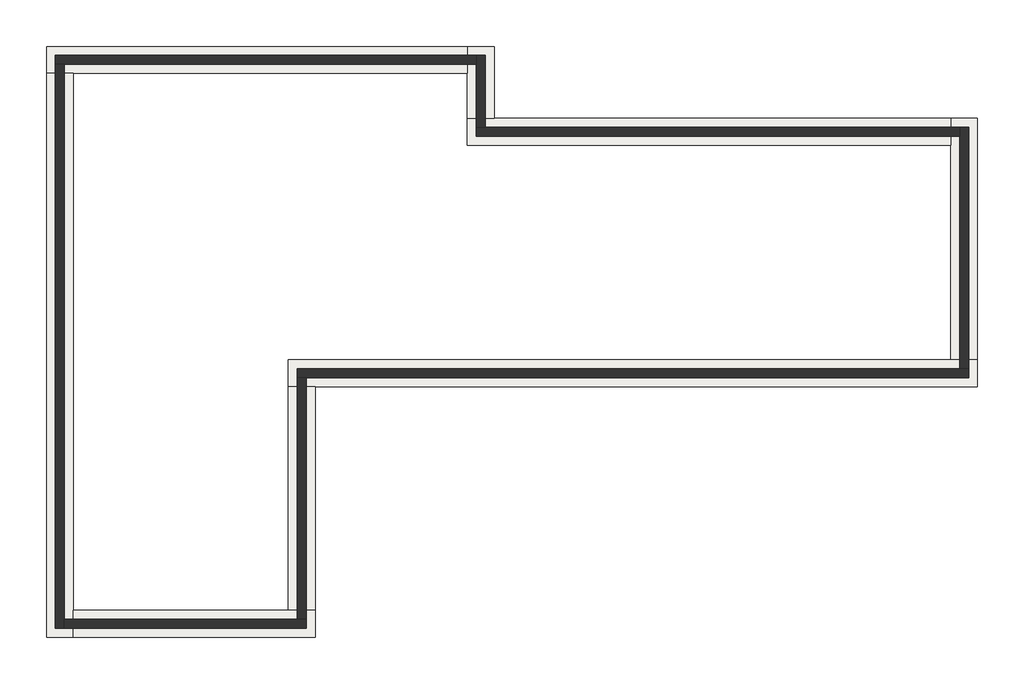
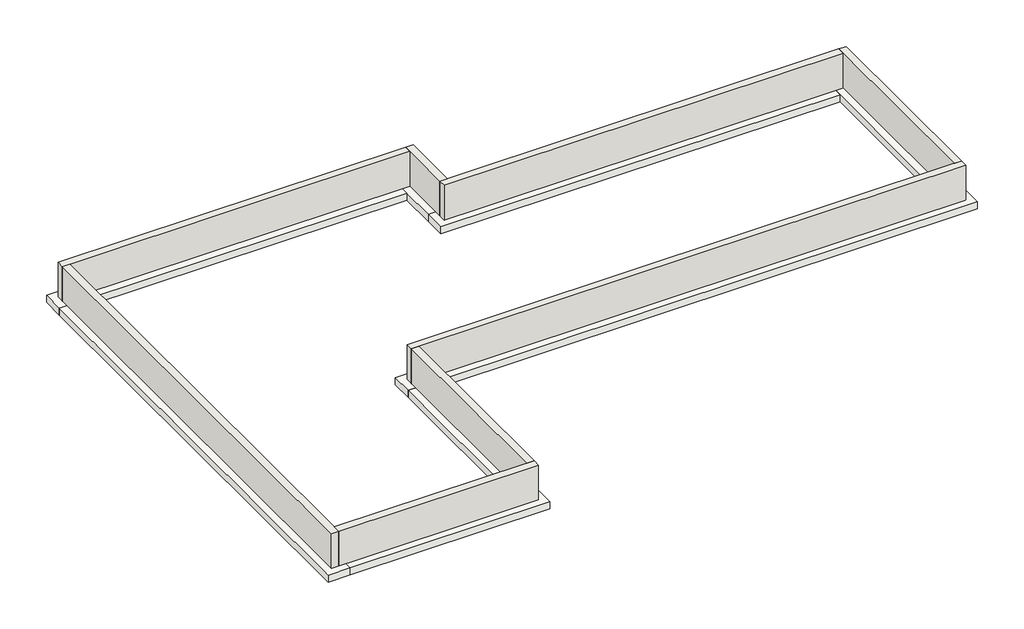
# One storey: 8 footings, 8 walls.
"""IFC4 building model written with IfcOpenShell, lengths in millimetres."""

import ifcopenshell
import ifcopenshell.guid

model = None  # the IFC model being written
_history = None  # IfcOwnerHistory: only IFC2X3 demands one
_inside = {}  # id of a spatial element -> (the spatial element, [elements in it])
_under = {}  # id of a project, library or spatial element -> (it, [spatial elements below it])
_declared = {}  # id of a project -> (the project, [libraries it declares])
_typed = {}  # id of a type object -> (the type object, [elements of that type])
_made_of = {}  # id of a material, layer set ... -> (it, [elements and type objects made of it])


def new_model(schema):
    """Start an empty IFC model of exactly this schema.

    Asked for "IFC4X3", IfcOpenShell would pick the latest addendum, in which some entities
    have other attributes; the version numbers below select the first issue.
    IFC2X3 requires an IfcOwnerHistory on every rooted entity: one is made here for all.
    """
    global model, _history
    if schema == "IFC4X3":
        model = ifcopenshell.file(schema_version=(4, 3, 0, 0))
    else:
        model = ifcopenshell.file(schema=schema)
    _inside.clear()
    _under.clear()
    _declared.clear()
    _typed.clear()
    _made_of.clear()
    _history = None
    if model.schema == "IFC2X3":
        org = make("IfcOrganization", Name="unknown")
        user = make(
            "IfcPersonAndOrganization",
            ThePerson=make("IfcPerson", FamilyName="unknown"),
            TheOrganization=org,
        )
        app = make(
            "IfcApplication",
            ApplicationDeveloper=org,
            Version="unknown",
            ApplicationFullName="unknown",
            ApplicationIdentifier="unknown",
        )
        _history = make(
            "IfcOwnerHistory",
            OwningUser=user,
            OwningApplication=app,
            ChangeAction="ADDED",
            CreationDate=0,
        )
    return model


def make(cls, **values):
    """One entity of the class cls with the attributes given. An attribute that is None is left unset."""
    return model.create_entity(
        cls, **{name: value for name, value in values.items() if value is not None}
    )


def rooted(cls, **values):
    """An entity with a GlobalId (a new one), such as an element, a storey or a relation."""
    return make(cls, GlobalId=ifcopenshell.guid.new(), OwnerHistory=_history, **values)


def si_unit(unit_type, name, prefix=None):
    """IfcSIUnit, for example si_unit("LENGTHUNIT", "METRE", prefix="MILLI")."""
    return make("IfcSIUnit", UnitType=unit_type, Prefix=prefix, Name=name)


def assignment(units):
    """IfcUnitAssignment: the units of a project."""
    return None if units is None else make("IfcUnitAssignment", Units=units)


def point(xyz):
    """IfcCartesianPoint."""
    return None if xyz is None else make("IfcCartesianPoint", Coordinates=xyz)


def direction(xyz):
    """IfcDirection."""
    return None if xyz is None else make("IfcDirection", DirectionRatios=xyz)


def frame(location, z_axis=None, x_axis=None):
    """IfcAxis2Placement3D, a coordinate frame: its origin and axes. An axis left out is left unset."""
    return make(
        "IfcAxis2Placement3D",
        Location=point(location),
        Axis=direction(z_axis),
        RefDirection=direction(x_axis),
    )


def origin():
    """The frame at (0, 0, 0) with its axes left unset."""
    return frame((0.0, 0.0, 0.0))


def place(relative_to, where):
    """IfcLocalPlacement: puts the frame where relative to a parent placement (None: the world)."""
    return make(
        "IfcLocalPlacement", PlacementRelTo=relative_to, RelativePlacement=where
    )


def context(
    kind, dimensions, precision=None, world=None, true_north=None, identifier=None
):
    """IfcGeometricRepresentationContext, for example the 3D "Model" context."""
    return make(
        "IfcGeometricRepresentationContext",
        ContextIdentifier=identifier,
        ContextType=kind,
        CoordinateSpaceDimension=dimensions,
        Precision=precision,
        WorldCoordinateSystem=world,
        TrueNorth=true_north,
    )


def project(units=None, contexts=None):
    """IfcProject with its units and contexts."""
    return rooted(
        "IfcProject",
        Name="project",
        RepresentationContexts=contexts,
        UnitsInContext=assignment(units),
    )


def spatial(cls, under=None, at=None, **own):
    """A site, building, storey or space (cls), placed at a placement, below another one or the project."""
    s = rooted(cls, ObjectPlacement=at, **own)
    if under is not None:
        _under.setdefault(under.id(), (under, []))[1].append(s)
    return s


def polyline(points):
    """IfcPolyline through the points."""
    return make("IfcPolyline", Points=[point(p) for p in points])


def outline(outer, holes=None, kind="AREA"):
    """IfcArbitraryClosedProfileDef: a profile drawn as a closed curve; with holes, ...WithVoids."""
    if holes is None:
        return make("IfcArbitraryClosedProfileDef", ProfileType=kind, OuterCurve=outer)
    return make(
        "IfcArbitraryProfileDefWithVoids",
        ProfileType=kind,
        OuterCurve=outer,
        InnerCurves=holes,
    )


def extrude(swept, where, along, depth):
    """IfcExtrudedAreaSolid: the profile swept, set in the frame where, extruded along a direction by depth."""
    return make(
        "IfcExtrudedAreaSolid",
        SweptArea=swept,
        Position=where,
        ExtrudedDirection=direction(along),
        Depth=depth,
    )


def faces_of(points, faces, orient=None, outer=None):
    """IfcFace entities. A face is a list of loops; a loop is a list of indices into points, from 0.

    orient and outer hold one flag for each loop. By default every Orientation is true, the
    first loop of a face is its IfcFaceOuterBound and the others are IfcFaceBound.
    """
    made = []
    for i, loops in enumerate(faces):
        bounds = []
        for j, loop in enumerate(loops):
            is_outer = j == 0 if outer is None else outer[i][j]
            bounds.append(
                make(
                    "IfcFaceOuterBound" if is_outer else "IfcFaceBound",
                    Bound=make("IfcPolyLoop", Polygon=[points[k] for k in loop]),
                    Orientation=True if orient is None else orient[i][j],
                )
            )
        made.append(make("IfcFace", Bounds=bounds))
    return made


def faceted_brep(points, faces, orient=None, outer=None, voids=None):
    """IfcFacetedBrep: a solid bounded by flat faces; with voids (closed shells), ...WithVoids."""
    shared = [point(p) for p in points]
    hull = make("IfcClosedShell", CfsFaces=faces_of(shared, faces, orient, outer))
    if voids is None:
        return make("IfcFacetedBrep", Outer=hull)
    return make(
        "IfcFacetedBrepWithVoids",
        Outer=hull,
        Voids=[
            make(cls, CfsFaces=faces_of(shared, fs, o, b)) for cls, fs, o, b in voids
        ],
    )


def shape(context_of_items, identifier, shape_type, items):
    """IfcShapeRepresentation: the items that make up one representation, for example the "Body"."""
    return make(
        "IfcShapeRepresentation",
        ContextOfItems=context_of_items,
        RepresentationIdentifier=identifier,
        RepresentationType=shape_type,
        Items=items,
    )


def made_of(thing, what):
    """Note that an element or type object is made of a material, layer set ...; save() writes the relation."""
    if what is not None:
        _made_of.setdefault(what.id(), (what, []))[1].append(thing)
    return thing


def element(
    cls,
    number,
    at=None,
    inside=None,
    cuts=None,
    type_object=None,
    material=None,
    context=None,
    identifier="Body",
    shape_type=None,
    held_by="IfcProductDefinitionShape",
    body=None,
    shapes=None,
    **own,
):
    """One element of the class cls, such as IfcWall. Its Tag is "e" and its number.

    at: its placement. inside: the storey or other place that contains it. cuts: it is an
    opening in that element (IfcRelVoidsElement). A single representation is given by context,
    identifier, shape_type and body (its items); several are given by shapes. held_by: the class
    of the entity that holds the representations. save() writes the other relations.
    """
    e = rooted(cls, Tag="e%d" % number, ObjectPlacement=at, **own)
    if body is not None:
        shapes = [shape(context, identifier, shape_type, body)]
    if shapes is not None:
        e.Representation = make(held_by, Representations=shapes)
    if inside is not None:
        _inside.setdefault(inside.id(), (inside, []))[1].append(e)
    if cuts is not None:
        rooted(
            "IfcRelVoidsElement", RelatingBuildingElement=cuts, RelatedOpeningElement=e
        )
    if type_object is not None:
        _typed.setdefault(type_object.id(), (type_object, []))[1].append(e)
    return made_of(e, material)


def aggregate(whole, parts):
    """IfcRelAggregates: a whole, such as a stair, and the parts it consists of."""
    return rooted("IfcRelAggregates", RelatingObject=whole, RelatedObjects=parts)


def save(model, path):
    """Write the relations noted so far, then the file.

    IfcRelAggregates (storeys below a building ...), IfcRelContainedInSpatialStructure (elements
    in a storey), IfcRelDefinesByType, IfcRelAssociatesMaterial and IfcRelDeclares: one each for
    every whole, place, type object, material and project.
    """
    for whole, parts in _under.values():
        aggregate(whole, parts)
    for where, things in _inside.values():
        rooted(
            "IfcRelContainedInSpatialStructure",
            RelatedElements=things,
            RelatingStructure=where,
        )
    for kind, things in _typed.values():
        rooted("IfcRelDefinesByType", RelatedObjects=things, RelatingType=kind)
    for what, things in _made_of.values():
        rooted("IfcRelAssociatesMaterial", RelatedObjects=things, RelatingMaterial=what)
    for by, libraries in _declared.values():
        rooted("IfcRelDeclares", RelatingContext=by, RelatedDefinitions=libraries)
    model.write(path)


model = new_model("IFC4")

# Units and contexts
model_context = context("Model", 3, world=origin())
ifc_project = project(units=[si_unit("LENGTHUNIT", "METRE", prefix="MILLI")], contexts=[model_context])

# Site, building, storey
site = spatial("IfcSite", under=ifc_project)
building = spatial("IfcBuilding", under=site)
storey = spatial("IfcBuildingStorey", under=building, Name="T.O. Footing", Elevation=-1520.0)

# Footings
placement = place(None, origin())
element("IfcFooting", 1, ObjectType="Bearing Footing - 36\" x 12\"", at=placement, inside=storey, context=model_context, shape_type="Brep", body=[
    faceted_brep([(17458.2733448, 557.9855424, -1520.0), (16543.8733448, 557.9855424, -1520.0), (-6011.3266552, 557.9855424, -1520.0), (-6011.3266552, -356.4144576, -1520.0), (-5096.9266552, -356.4144576, -1520.0), (17458.2733448, -356.4144576, -1520.0), (17458.2733448, -356.4144576, -1824.8), (-6011.3266552, -356.4144576, -1824.8), (-5096.9266552, -356.4144576, -1824.8), (17458.2733448, 557.9855424, -1824.8), (-6011.3266552, 557.9855424, -1824.8), (16543.8733448, 557.9855424, -1824.8)], [[[0, 1, 2, 3, 4, 5]], [[6, 5, 4, 3, 7, 8]], [[9, 6, 8, 7, 10, 11]], [[0, 9, 11, 10, 2, 1]], [[0, 5, 6, 9]], [[3, 2, 10, 7]]]),
])
element("IfcFooting", 2, ObjectType="Bearing Footing - 36\" x 12\"", at=placement, inside=storey, context=model_context, shape_type="Brep", body=[
    faceted_brep([(17458.2733448, 8787.5855424, -1520.0), (16543.8733448, 8787.5855424, -1520.0), (16543.8733448, 7873.1855424, -1520.0), (16543.8733448, 557.9855424, -1520.0), (17458.2733448, 557.9855424, -1520.0), (17458.2733448, 8787.5855424, -1824.8), (17458.2733448, 557.9855424, -1824.8), (16543.8733448, 8787.5855424, -1824.8), (16543.8733448, 557.9855424, -1824.8), (16543.8733448, 7873.1855424, -1824.8)], [[[0, 1, 2, 3, 4]], [[5, 0, 4, 6]], [[7, 5, 6, 8, 9]], [[1, 7, 9, 8, 3, 2]], [[1, 0, 5, 7]], [[4, 3, 8, 6]]]),
])
element("IfcFooting", 3, ObjectType="Bearing Footing - 36\" x 12\"", at=placement, inside=storey, context=model_context, shape_type="Brep", body=[
    faceted_brep([(84.6733448, 8787.5855424, -1520.0), (84.6733448, 7873.1855424, -1520.0), (16543.8733448, 7873.1855424, -1520.0), (16543.8733448, 8787.5855424, -1520.0), (999.0733448, 8787.5855424, -1520.0), (84.6733448, 8787.5855424, -1824.8), (16543.8733448, 8787.5855424, -1824.8), (999.0733448, 8787.5855424, -1824.8), (84.6733448, 7873.1855424, -1824.8), (16543.8733448, 7873.1855424, -1824.8)], [[[0, 1, 2, 3, 4]], [[5, 0, 4, 3, 6, 7]], [[8, 5, 7, 6, 9]], [[1, 8, 9, 2]], [[1, 0, 5, 8]], [[3, 2, 9, 6]]]),
])
element("IfcFooting", 4, ObjectType="Bearing Footing - 36\" x 12\"", at=placement, inside=storey, context=model_context, shape_type="Brep", body=[
    faceted_brep([(999.0733448, 11225.9855424, -1520.0), (84.6733448, 11225.9855424, -1520.0), (84.6733448, 10311.5855424, -1520.0), (84.6733448, 8787.5855424, -1520.0), (999.0733448, 8787.5855424, -1520.0), (999.0733448, 11225.9855424, -1824.8), (999.0733448, 8787.5855424, -1824.8), (84.6733448, 11225.9855424, -1824.8), (84.6733448, 8787.5855424, -1824.8), (84.6733448, 10311.5855424, -1824.8)], [[[0, 1, 2, 3, 4]], [[5, 0, 4, 6]], [[7, 5, 6, 8, 9]], [[1, 7, 9, 8, 3, 2]], [[1, 0, 5, 7]], [[4, 3, 8, 6]]]),
])
element("IfcFooting", 5, ObjectType="Bearing Footing - 36\" x 12\"", at=placement, inside=storey, context=model_context, shape_type="Brep", body=[
    faceted_brep([(-14240.9266552, 11225.9855424, -1520.0), (-14240.9266552, 10311.5855424, -1520.0), (-13326.5266552, 10311.5855424, -1520.0), (84.6733448, 10311.5855424, -1520.0), (84.6733448, 11225.9855424, -1520.0), (-14240.9266552, 11225.9855424, -1824.8), (84.6733448, 11225.9855424, -1824.8), (-14240.9266552, 10311.5855424, -1824.8), (84.6733448, 10311.5855424, -1824.8), (-13326.5266552, 10311.5855424, -1824.8)], [[[0, 1, 2, 3, 4]], [[5, 0, 4, 6]], [[7, 5, 6, 8, 9]], [[1, 7, 9, 8, 3, 2]], [[1, 0, 5, 7]], [[4, 3, 8, 6]]]),
])
element("IfcFooting", 6, ObjectType="Bearing Footing - 36\" x 12\"", at=placement, inside=storey, context=model_context, shape_type="Brep", body=[
    faceted_brep([(-14240.9266552, -8890.8144576, -1520.0), (-13326.5266552, -8890.8144576, -1520.0), (-13326.5266552, -7976.4144576, -1520.0), (-13326.5266552, 10311.5855424, -1520.0), (-14240.9266552, 10311.5855424, -1520.0), (-14240.9266552, -8890.8144576, -1824.8), (-14240.9266552, 10311.5855424, -1824.8), (-13326.5266552, -8890.8144576, -1824.8), (-13326.5266552, 10311.5855424, -1824.8), (-13326.5266552, -7976.4144576, -1824.8)], [[[0, 1, 2, 3, 4]], [[5, 0, 4, 6]], [[7, 5, 6, 8, 9]], [[1, 7, 9, 8, 3, 2]], [[1, 0, 5, 7]], [[4, 3, 8, 6]]]),
])
element("IfcFooting", 7, ObjectType="Bearing Footing - 36\" x 12\"", at=placement, inside=storey, context=model_context, shape_type="Brep", body=[
    faceted_brep([(-5096.9266552, -8890.8144576, -1520.0), (-5096.9266552, -7976.4144576, -1520.0), (-6011.3266552, -7976.4144576, -1520.0), (-13326.5266552, -7976.4144576, -1520.0), (-13326.5266552, -8890.8144576, -1520.0), (-5096.9266552, -8890.8144576, -1824.8), (-13326.5266552, -8890.8144576, -1824.8), (-5096.9266552, -7976.4144576, -1824.8), (-13326.5266552, -7976.4144576, -1824.8), (-6011.3266552, -7976.4144576, -1824.8)], [[[0, 1, 2, 3, 4]], [[5, 0, 4, 6]], [[7, 5, 6, 8, 9]], [[1, 7, 9, 8, 3, 2]], [[1, 0, 5, 7]], [[4, 3, 8, 6]]]),
])
element("IfcFooting", 8, ObjectType="Bearing Footing - 36\" x 12\"", at=placement, inside=storey, context=model_context, shape_type="SweptSolid", body=[
    extrude(outline(polyline([(-6011.3266552, -356.4144576), (-5096.9266552, -356.4144576), (-5096.9266552, -7976.4144576), (-6011.3266552, -7976.4144576), (-6011.3266552, -356.4144576)])), frame((0.0, 0.0, -1824.8), z_axis=(0.0, 0.0, 1.0), x_axis=(1.0, 0.0, 0.0)), (0.0, 0.0, 1.0), 304.8),
])

# Walls
element("IfcWall", 9, ObjectType="Foundation - 12\" Concrete", at=placement, inside=storey, context=model_context, shape_type="Brep", body=[
    faceted_brep([(17153.4733448, 253.1855424, -1520.0), (16848.6733448, 253.1855424, -1520.0), (-5706.5266552, 253.1855424, -1520.0), (-5706.5266552, 253.1855424, 0.0), (16848.6733448, 253.1855424, 0.0), (17153.4733448, 253.1855424, 0.0), (17153.4733448, -51.6144576, -1520.0), (17153.4733448, -51.6144576, 0.0), (-5401.7266552, -51.6144576, 0.0), (-5706.5266552, -51.6144576, 0.0), (-5706.5266552, -51.6144576, -1520.0), (-5401.7266552, -51.6144576, -1520.0)], [[[0, 1, 2, 3, 4, 5]], [[6, 7, 8, 9, 10, 11]], [[2, 1, 0, 6, 11, 10]], [[5, 4, 3, 9, 8, 7]], [[0, 5, 7, 6]], [[3, 2, 10, 9]]]),
])
element("IfcWall", 10, ObjectType="Foundation - 12\" Concrete", at=placement, inside=storey, context=model_context, shape_type="Brep", body=[
    faceted_brep([(16848.6733448, 8482.7855424, -1520.0), (16848.6733448, 8177.9855424, -1520.0), (16848.6733448, 253.1855424, -1520.0), (16848.6733448, 253.1855424, 0.0), (16848.6733448, 8177.9855424, 0.0), (16848.6733448, 8482.7855424, 0.0), (17153.4733448, 8482.7855424, -1520.0), (17153.4733448, 8482.7855424, 0.0), (17153.4733448, 253.1855424, 0.0), (17153.4733448, 253.1855424, -1520.0)], [[[0, 1, 2, 3, 4, 5]], [[6, 7, 8, 9]], [[2, 1, 0, 6, 9]], [[5, 4, 3, 8, 7]], [[3, 2, 9, 8]], [[0, 5, 7, 6]]]),
])
element("IfcWall", 11, ObjectType="Foundation - 12\" Concrete", at=placement, inside=storey, context=model_context, shape_type="Brep", body=[
    faceted_brep([(389.4733448, 8177.9855424, -1520.0), (16848.6733448, 8177.9855424, -1520.0), (16848.6733448, 8177.9855424, 0.0), (389.4733448, 8177.9855424, 0.0), (389.4733448, 8482.7855424, -1520.0), (389.4733448, 8482.7855424, 0.0), (694.2733448, 8482.7855424, 0.0), (16848.6733448, 8482.7855424, 0.0), (16848.6733448, 8482.7855424, -1520.0), (694.2733448, 8482.7855424, -1520.0)], [[[0, 1, 2, 3]], [[4, 5, 6, 7, 8, 9]], [[1, 0, 4, 9, 8]], [[3, 2, 7, 6, 5]], [[2, 1, 8, 7]], [[0, 3, 5, 4]]]),
])
element("IfcWall", 12, ObjectType="Foundation - 12\" Concrete", at=placement, inside=storey, context=model_context, shape_type="Brep", body=[
    faceted_brep([(389.4733448, 10921.1855424, -1520.0), (389.4733448, 10616.3855424, -1520.0), (389.4733448, 8482.7855424, -1520.0), (389.4733448, 8482.7855424, 0.0), (389.4733448, 10616.3855424, 0.0), (389.4733448, 10921.1855424, 0.0), (694.2733448, 10921.1855424, -1520.0), (694.2733448, 10921.1855424, 0.0), (694.2733448, 8482.7855424, 0.0), (694.2733448, 8482.7855424, -1520.0)], [[[0, 1, 2, 3, 4, 5]], [[6, 7, 8, 9]], [[2, 1, 0, 6, 9]], [[5, 4, 3, 8, 7]], [[3, 2, 9, 8]], [[0, 5, 7, 6]]]),
])
element("IfcWall", 13, ObjectType="Foundation - 12\" Concrete", at=placement, inside=storey, context=model_context, shape_type="Brep", body=[
    faceted_brep([(-13936.1266552, 10616.3855424, -1520.0), (-13631.3266552, 10616.3855424, -1520.0), (389.4733448, 10616.3855424, -1520.0), (389.4733448, 10616.3855424, 0.0), (-13631.3266552, 10616.3855424, 0.0), (-13936.1266552, 10616.3855424, 0.0), (-13936.1266552, 10921.1855424, -1520.0), (-13936.1266552, 10921.1855424, 0.0), (389.4733448, 10921.1855424, 0.0), (389.4733448, 10921.1855424, -1520.0)], [[[0, 1, 2, 3, 4, 5]], [[6, 7, 8, 9]], [[2, 1, 0, 6, 9]], [[5, 4, 3, 8, 7]], [[3, 2, 9, 8]], [[0, 5, 7, 6]]]),
])
element("IfcWall", 14, ObjectType="Foundation - 12\" Concrete", at=placement, inside=storey, context=model_context, shape_type="Brep", body=[
    faceted_brep([(-13631.3266552, -8586.0144576, -1520.0), (-13631.3266552, -8281.2144576, -1520.0), (-13631.3266552, 10616.3855424, -1520.0), (-13631.3266552, 10616.3855424, 0.0), (-13631.3266552, -8281.2144576, 0.0), (-13631.3266552, -8586.0144576, 0.0), (-13936.1266552, -8586.0144576, -1520.0), (-13936.1266552, -8586.0144576, 0.0), (-13936.1266552, 10616.3855424, 0.0), (-13936.1266552, 10616.3855424, -1520.0)], [[[0, 1, 2, 3, 4, 5]], [[6, 7, 8, 9]], [[2, 1, 0, 6, 9]], [[5, 4, 3, 8, 7]], [[3, 2, 9, 8]], [[0, 5, 7, 6]]]),
])
element("IfcWall", 15, ObjectType="Foundation - 12\" Concrete", at=placement, inside=storey, context=model_context, shape_type="Brep", body=[
    faceted_brep([(-5401.7266552, -8281.2144576, -1520.0), (-5706.5266552, -8281.2144576, -1520.0), (-13631.3266552, -8281.2144576, -1520.0), (-13631.3266552, -8281.2144576, 0.0), (-5706.5266552, -8281.2144576, 0.0), (-5401.7266552, -8281.2144576, 0.0), (-5401.7266552, -8586.0144576, -1520.0), (-5401.7266552, -8586.0144576, 0.0), (-13631.3266552, -8586.0144576, 0.0), (-13631.3266552, -8586.0144576, -1520.0)], [[[0, 1, 2, 3, 4, 5]], [[6, 7, 8, 9]], [[2, 1, 0, 6, 9]], [[5, 4, 3, 8, 7]], [[3, 2, 9, 8]], [[0, 5, 7, 6]]]),
])
element("IfcWall", 16, ObjectType="Foundation - 12\" Concrete", at=placement, inside=storey, context=model_context, shape_type="SweptSolid", body=[
    extrude(outline(polyline([(-5706.5266552, -8281.2144576), (-5706.5266552, -51.6144576), (-5401.7266552, -51.6144576), (-5401.7266552, -8281.2144576), (-5706.5266552, -8281.2144576)])), frame((0.0, 0.0, -1520.0), z_axis=(0.0, 0.0, 1.0), x_axis=(1.0, 0.0, 0.0)), (0.0, 0.0, 1.0), 1520.0),
])

save(model, "model.ifc")
